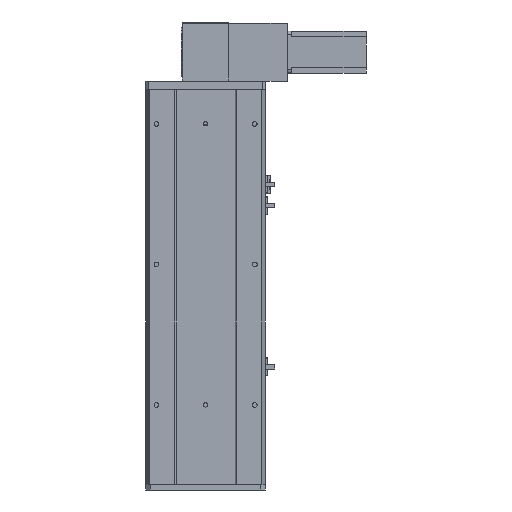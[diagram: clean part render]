
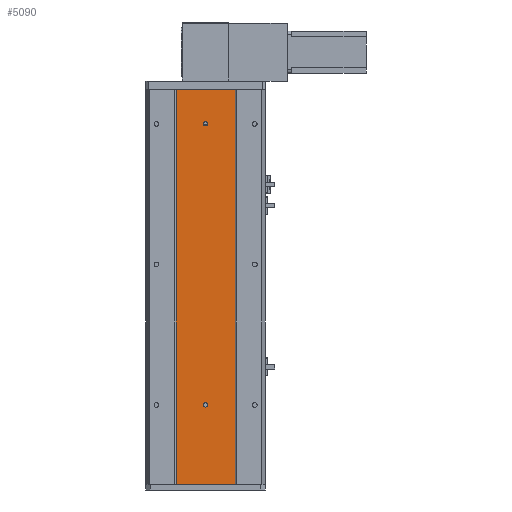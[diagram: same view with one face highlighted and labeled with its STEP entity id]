
A CAD part, front view. The second image highlights one B-rep face of the part: STEP entity #5090.
In plain terms, the highlighted planar face has unit normal (0, -1, 0).
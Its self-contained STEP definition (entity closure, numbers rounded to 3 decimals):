
#108 = DIRECTION ( 'NONE',  ( 0., 0., 1. ) ) ;
#385 = ORIENTED_EDGE ( 'NONE', *, *, #5226, .T. ) ;
#443 = CIRCLE ( 'NONE', #10855, 3. ) ;
#674 = EDGE_CURVE ( 'NONE', #16846, #7498, #25342, .T. ) ;
#1277 = DIRECTION ( 'NONE',  ( 0., 0., 1. ) ) ;
#1356 = LINE ( 'NONE', #10560, #17303 ) ;
#1701 = CARTESIAN_POINT ( 'NONE',  ( 85., 2.57, 516. ) ) ;
#2042 = FACE_OUTER_BOUND ( 'NONE', #22720, .T. ) ;
#2677 = VECTOR ( 'NONE', #27564, 1000. ) ;
#3424 = VERTEX_POINT ( 'NONE', #25835 ) ;
#4034 = CIRCLE ( 'NONE', #23825, 3. ) ;
#4968 = VERTEX_POINT ( 'NONE', #21222 ) ;
#5090 = ADVANCED_FACE ( 'NONE', ( #7850, #13583, #2042 ), #19678, .F. ) ;
#5129 = EDGE_CURVE ( 'NONE', #16433, #22096, #1356, .T. ) ;
#5226 = EDGE_CURVE ( 'NONE', #7498, #22096, #15974, .T. ) ;
#5874 = EDGE_CURVE ( 'NONE', #10030, #3424, #18267, .T. ) ;
#6819 = ORIENTED_EDGE ( 'NONE', *, *, #5129, .F. ) ;
#7073 = ORIENTED_EDGE ( 'NONE', *, *, #674, .T. ) ;
#7460 = ORIENTED_EDGE ( 'NONE', *, *, #5874, .T. ) ;
#7470 = DIRECTION ( 'NONE',  ( 0., 0., 1. ) ) ;
#7498 = VERTEX_POINT ( 'NONE', #21754 ) ;
#7850 = FACE_BOUND ( 'NONE', #22572, .T. ) ;
#8209 = EDGE_CURVE ( 'NONE', #4968, #21040, #22526, .T. ) ;
#8322 = ORIENTED_EDGE ( 'NONE', *, *, #20671, .T. ) ;
#9617 = AXIS2_PLACEMENT_3D ( 'NONE', #10371, #10341, #10293 ) ;
#9791 = CARTESIAN_POINT ( 'NONE',  ( 126.916, 2.57, 0. ) ) ;
#10030 = VERTEX_POINT ( 'NONE', #1701 ) ;
#10293 = DIRECTION ( 'NONE',  ( 0., 0., 1. ) ) ;
#10341 = DIRECTION ( 'NONE',  ( 0., 1., 0. ) ) ;
#10371 = CARTESIAN_POINT ( 'NONE',  ( 85., 2.57, 113. ) ) ;
#10560 = CARTESIAN_POINT ( 'NONE',  ( 42.916, 2.57, 0. ) ) ;
#10855 = AXIS2_PLACEMENT_3D ( 'NONE', #26767, #14305, #1277 ) ;
#11391 = VECTOR ( 'NONE', #24641, 1000. ) ;
#11942 = AXIS2_PLACEMENT_3D ( 'NONE', #16456, #22834, #17077 ) ;
#13152 = DIRECTION ( 'NONE',  ( 0., 1., 0. ) ) ;
#13184 = AXIS2_PLACEMENT_3D ( 'NONE', #26005, #25911, #25819 ) ;
#13476 = EDGE_LOOP ( 'NONE', ( #17450, #15212 ) ) ;
#13583 = FACE_BOUND ( 'NONE', #13476, .T. ) ;
#14305 = DIRECTION ( 'NONE',  ( 0., 1., 0. ) ) ;
#15212 = ORIENTED_EDGE ( 'NONE', *, *, #8209, .T. ) ;
#15974 = LINE ( 'NONE', #25841, #20902 ) ;
#16433 = VERTEX_POINT ( 'NONE', #20852 ) ;
#16456 = CARTESIAN_POINT ( 'NONE',  ( 42.916, 2.57, 0. ) ) ;
#16846 = VERTEX_POINT ( 'NONE', #9791 ) ;
#17077 = DIRECTION ( 'NONE',  ( 0., 0., 1. ) ) ;
#17138 = LINE ( 'NONE', #18428, #11391 ) ;
#17303 = VECTOR ( 'NONE', #7470, 1000. ) ;
#17450 = ORIENTED_EDGE ( 'NONE', *, *, #23402, .T. ) ;
#17649 = CARTESIAN_POINT ( 'NONE',  ( 126.916, 2.57, 0. ) ) ;
#18267 = CIRCLE ( 'NONE', #13184, 3. ) ;
#18428 = CARTESIAN_POINT ( 'NONE',  ( 42.916, 2.57, 0. ) ) ;
#19061 = EDGE_CURVE ( 'NONE', #16846, #16433, #17138, .T. ) ;
#19678 = PLANE ( 'NONE',  #11942 ) ;
#20416 = CARTESIAN_POINT ( 'NONE',  ( 42.916, 2.57, 562. ) ) ;
#20671 = EDGE_CURVE ( 'NONE', #3424, #10030, #4034, .T. ) ;
#20852 = CARTESIAN_POINT ( 'NONE',  ( 42.916, 2.57, 0. ) ) ;
#20902 = VECTOR ( 'NONE', #25543, 1000. ) ;
#21040 = VERTEX_POINT ( 'NONE', #22779 ) ;
#21222 = CARTESIAN_POINT ( 'NONE',  ( 85., 2.57, 116. ) ) ;
#21754 = CARTESIAN_POINT ( 'NONE',  ( 126.916, 2.57, 562. ) ) ;
#22096 = VERTEX_POINT ( 'NONE', #20416 ) ;
#22526 = CIRCLE ( 'NONE', #9617, 3. ) ;
#22572 = EDGE_LOOP ( 'NONE', ( #8322, #7460 ) ) ;
#22720 = EDGE_LOOP ( 'NONE', ( #385, #6819, #24585, #7073 ) ) ;
#22779 = CARTESIAN_POINT ( 'NONE',  ( 85., 2.57, 110. ) ) ;
#22834 = DIRECTION ( 'NONE',  ( 0., 1., 0. ) ) ;
#23402 = EDGE_CURVE ( 'NONE', #21040, #4968, #443, .T. ) ;
#23825 = AXIS2_PLACEMENT_3D ( 'NONE', #25704, #13152, #108 ) ;
#24585 = ORIENTED_EDGE ( 'NONE', *, *, #19061, .F. ) ;
#24641 = DIRECTION ( 'NONE',  ( -1., 0., 0. ) ) ;
#25342 = LINE ( 'NONE', #17649, #2677 ) ;
#25543 = DIRECTION ( 'NONE',  ( -1., 0., 0. ) ) ;
#25704 = CARTESIAN_POINT ( 'NONE',  ( 85., 2.57, 513. ) ) ;
#25819 = DIRECTION ( 'NONE',  ( 0., 0., 1. ) ) ;
#25835 = CARTESIAN_POINT ( 'NONE',  ( 85., 2.57, 510. ) ) ;
#25841 = CARTESIAN_POINT ( 'NONE',  ( 42.916, 2.57, 562. ) ) ;
#25911 = DIRECTION ( 'NONE',  ( 0., 1., 0. ) ) ;
#26005 = CARTESIAN_POINT ( 'NONE',  ( 85., 2.57, 513. ) ) ;
#26767 = CARTESIAN_POINT ( 'NONE',  ( 85., 2.57, 113. ) ) ;
#27564 = DIRECTION ( 'NONE',  ( 0., 0., 1. ) ) ;
